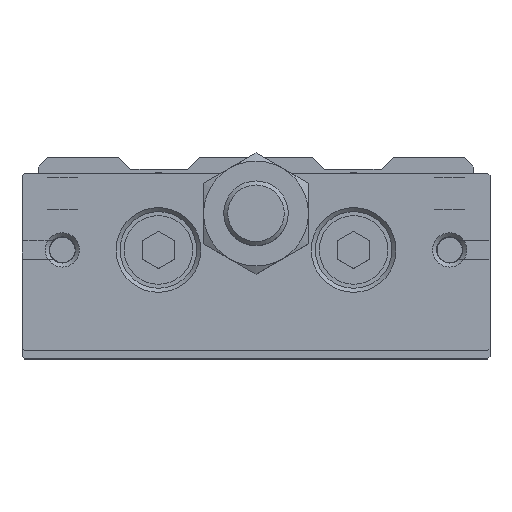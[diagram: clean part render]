
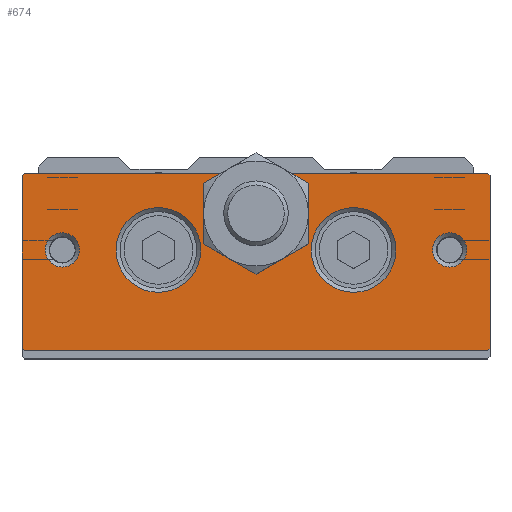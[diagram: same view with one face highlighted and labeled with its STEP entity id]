
A CAD part, top view. The second image highlights one B-rep face of the part: STEP entity #674.
In plain terms, the highlighted planar face has unit normal (0, 0, 1).
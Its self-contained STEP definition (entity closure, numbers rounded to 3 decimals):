
#455=CARTESIAN_POINT('',(-28.7,-13.,318.5));
#456=VERTEX_POINT('',#455);
#463=CARTESIAN_POINT('',(-29.,-12.7,318.5));
#464=VERTEX_POINT('',#463);
#465=CARTESIAN_POINT('',(-28.7,-13.,318.5));
#466=DIRECTION('',(-0.707,0.707,0.0));
#467=VECTOR('',#466,0.424);
#468=LINE('',#465,#467);
#469=EDGE_CURVE('',#456,#464,#468,.T.);
#486=CARTESIAN_POINT('',(-29.,8.7,318.5));
#487=VERTEX_POINT('',#486);
#488=CARTESIAN_POINT('',(-29.,8.7,318.5));
#489=DIRECTION('',(0.0,-1.0,0.0));
#490=VECTOR('',#489,21.4);
#491=LINE('',#488,#490);
#492=EDGE_CURVE('',#487,#464,#491,.T.);
#522=CARTESIAN_POINT('',(0.0,-13.,318.5));
#523=DIRECTION('',(0.0,0.0,1.0));
#524=DIRECTION('',(1.0,0.0,0.0));
#525=AXIS2_PLACEMENT_3D('',#522,#523,#524);
#526=PLANE('',#525);
#527=ORIENTED_EDGE('',*,*,#469,.F.);
#528=CARTESIAN_POINT('',(28.7,-13.,318.5));
#529=VERTEX_POINT('',#528);
#530=CARTESIAN_POINT('',(-28.7,-13.,318.5));
#531=DIRECTION('',(1.0,0.0,0.0));
#532=VECTOR('',#531,57.4);
#533=LINE('',#530,#532);
#534=EDGE_CURVE('',#456,#529,#533,.T.);
#535=ORIENTED_EDGE('',*,*,#534,.T.);
#536=CARTESIAN_POINT('',(29.,-12.7,318.5));
#537=VERTEX_POINT('',#536);
#538=CARTESIAN_POINT('',(29.,-12.7,318.5));
#539=DIRECTION('',(-0.707,-0.707,0.0));
#540=VECTOR('',#539,0.424);
#541=LINE('',#538,#540);
#542=EDGE_CURVE('',#537,#529,#541,.T.);
#543=ORIENTED_EDGE('',*,*,#542,.F.);
#544=CARTESIAN_POINT('',(29.,8.7,318.5));
#545=VERTEX_POINT('',#544);
#546=CARTESIAN_POINT('',(29.,-12.7,318.5));
#547=DIRECTION('',(0.0,1.0,0.0));
#548=VECTOR('',#547,21.4);
#549=LINE('',#546,#548);
#550=EDGE_CURVE('',#537,#545,#549,.T.);
#551=ORIENTED_EDGE('',*,*,#550,.T.);
#552=CARTESIAN_POINT('',(28.7,9.,318.5));
#553=VERTEX_POINT('',#552);
#554=CARTESIAN_POINT('',(28.7,9.,318.5));
#555=DIRECTION('',(0.707,-0.707,0.0));
#556=VECTOR('',#555,0.424);
#557=LINE('',#554,#556);
#558=EDGE_CURVE('',#553,#545,#557,.T.);
#559=ORIENTED_EDGE('',*,*,#558,.F.);
#560=CARTESIAN_POINT('',(4.153,9.,318.5));
#561=VERTEX_POINT('',#560);
#562=CARTESIAN_POINT('',(28.7,9.,318.5));
#563=DIRECTION('',(-1.0,0.0,0.0));
#564=VECTOR('',#563,24.547);
#565=LINE('',#562,#564);
#566=EDGE_CURVE('',#553,#561,#565,.T.);
#567=ORIENTED_EDGE('',*,*,#566,.T.);
#568=CARTESIAN_POINT('',(6.5,4.,318.5));
#569=VERTEX_POINT('',#568);
#570=CARTESIAN_POINT('',(0.0,4.,318.5));
#571=DIRECTION('',(0.0,0.0,1.0));
#572=DIRECTION('',(0.0,1.0,0.0));
#573=AXIS2_PLACEMENT_3D('',#570,#571,#572);
#574=CIRCLE('',#573,6.5);
#575=EDGE_CURVE('',#569,#561,#574,.T.);
#576=ORIENTED_EDGE('',*,*,#575,.F.);
#577=CARTESIAN_POINT('',(3.25,-1.629,318.5));
#578=VERTEX_POINT('',#577);
#579=CARTESIAN_POINT('',(0.0,4.,318.5));
#580=DIRECTION('',(0.0,0.0,1.0));
#581=DIRECTION('',(0.0,1.0,0.0));
#582=AXIS2_PLACEMENT_3D('',#579,#580,#581);
#583=CIRCLE('',#582,6.5);
#584=EDGE_CURVE('',#578,#569,#583,.T.);
#585=ORIENTED_EDGE('',*,*,#584,.F.);
#586=CARTESIAN_POINT('',(-3.25,-1.629,318.5));
#587=VERTEX_POINT('',#586);
#588=CARTESIAN_POINT('',(0.0,4.,318.5));
#589=DIRECTION('',(0.0,0.0,1.0));
#590=DIRECTION('',(0.0,1.0,0.0));
#591=AXIS2_PLACEMENT_3D('',#588,#589,#590);
#592=CIRCLE('',#591,6.5);
#593=EDGE_CURVE('',#587,#578,#592,.T.);
#594=ORIENTED_EDGE('',*,*,#593,.F.);
#595=CARTESIAN_POINT('',(-6.5,4.,318.5));
#596=VERTEX_POINT('',#595);
#597=CARTESIAN_POINT('',(0.0,4.,318.5));
#598=DIRECTION('',(0.0,0.0,1.0));
#599=DIRECTION('',(0.0,1.0,0.0));
#600=AXIS2_PLACEMENT_3D('',#597,#598,#599);
#601=CIRCLE('',#600,6.5);
#602=EDGE_CURVE('',#596,#587,#601,.T.);
#603=ORIENTED_EDGE('',*,*,#602,.F.);
#604=CARTESIAN_POINT('',(-4.153,9.,318.5));
#605=VERTEX_POINT('',#604);
#606=CARTESIAN_POINT('',(0.0,4.,318.5));
#607=DIRECTION('',(0.0,0.0,1.0));
#608=DIRECTION('',(0.0,1.0,0.0));
#609=AXIS2_PLACEMENT_3D('',#606,#607,#608);
#610=CIRCLE('',#609,6.5);
#611=EDGE_CURVE('',#605,#596,#610,.T.);
#612=ORIENTED_EDGE('',*,*,#611,.F.);
#613=CARTESIAN_POINT('',(-28.7,9.,318.5));
#614=VERTEX_POINT('',#613);
#615=CARTESIAN_POINT('',(-4.153,9.,318.5));
#616=DIRECTION('',(-1.0,0.0,0.0));
#617=VECTOR('',#616,24.547);
#618=LINE('',#615,#617);
#619=EDGE_CURVE('',#605,#614,#618,.T.);
#620=ORIENTED_EDGE('',*,*,#619,.T.);
#621=CARTESIAN_POINT('',(-29.,8.7,318.5));
#622=DIRECTION('',(0.707,0.707,0.0));
#623=VECTOR('',#622,0.424);
#624=LINE('',#621,#623);
#625=EDGE_CURVE('',#487,#614,#624,.T.);
#626=ORIENTED_EDGE('',*,*,#625,.F.);
#627=ORIENTED_EDGE('',*,*,#492,.T.);
#628=EDGE_LOOP('',(#527,#535,#543,#551,#559,#567,#576,#585,#594,#603,#612,#620,#626,#627));
#629=FACE_OUTER_BOUND('',#628,.T.);
#630=CARTESIAN_POINT('',(-21.879,-0.5,318.5));
#631=VERTEX_POINT('',#630);
#632=CARTESIAN_POINT('',(-24.,-0.5,318.5));
#633=DIRECTION('',(0.0,0.0,1.0));
#634=DIRECTION('',(-1.0,0.0,0.0));
#635=AXIS2_PLACEMENT_3D('',#632,#633,#634);
#636=CIRCLE('',#635,2.121);
#637=EDGE_CURVE('',#631,#631,#636,.T.);
#638=ORIENTED_EDGE('',*,*,#637,.F.);
#639=EDGE_LOOP('',(#638));
#640=FACE_BOUND('',#639,.T.);
#641=CARTESIAN_POINT('',(26.121,-0.5,318.5));
#642=VERTEX_POINT('',#641);
#643=CARTESIAN_POINT('',(24.,-0.5,318.5));
#644=DIRECTION('',(0.0,0.0,1.0));
#645=DIRECTION('',(-1.0,0.0,0.0));
#646=AXIS2_PLACEMENT_3D('',#643,#644,#645);
#647=CIRCLE('',#646,2.121);
#648=EDGE_CURVE('',#642,#642,#647,.T.);
#649=ORIENTED_EDGE('',*,*,#648,.F.);
#650=EDGE_LOOP('',(#649));
#651=FACE_BOUND('',#650,.T.);
#652=CARTESIAN_POINT('',(-6.85,-0.5,318.5));
#653=VERTEX_POINT('',#652);
#654=CARTESIAN_POINT('',(-12.1,-0.5,318.5));
#655=DIRECTION('',(0.0,0.0,1.0));
#656=DIRECTION('',(-1.0,0.0,0.0));
#657=AXIS2_PLACEMENT_3D('',#654,#655,#656);
#658=CIRCLE('',#657,5.25);
#659=EDGE_CURVE('',#653,#653,#658,.T.);
#660=ORIENTED_EDGE('',*,*,#659,.F.);
#661=EDGE_LOOP('',(#660));
#662=FACE_BOUND('',#661,.T.);
#663=CARTESIAN_POINT('',(17.35,-0.5,318.5));
#664=VERTEX_POINT('',#663);
#665=CARTESIAN_POINT('',(12.1,-0.5,318.5));
#666=DIRECTION('',(0.0,0.0,1.0));
#667=DIRECTION('',(-1.0,0.0,0.0));
#668=AXIS2_PLACEMENT_3D('',#665,#666,#667);
#669=CIRCLE('',#668,5.25);
#670=EDGE_CURVE('',#664,#664,#669,.T.);
#671=ORIENTED_EDGE('',*,*,#670,.F.);
#672=EDGE_LOOP('',(#671));
#673=FACE_BOUND('',#672,.T.);
#674=ADVANCED_FACE('',(#629,#640,#651,#662,#673),#526,.T.);
